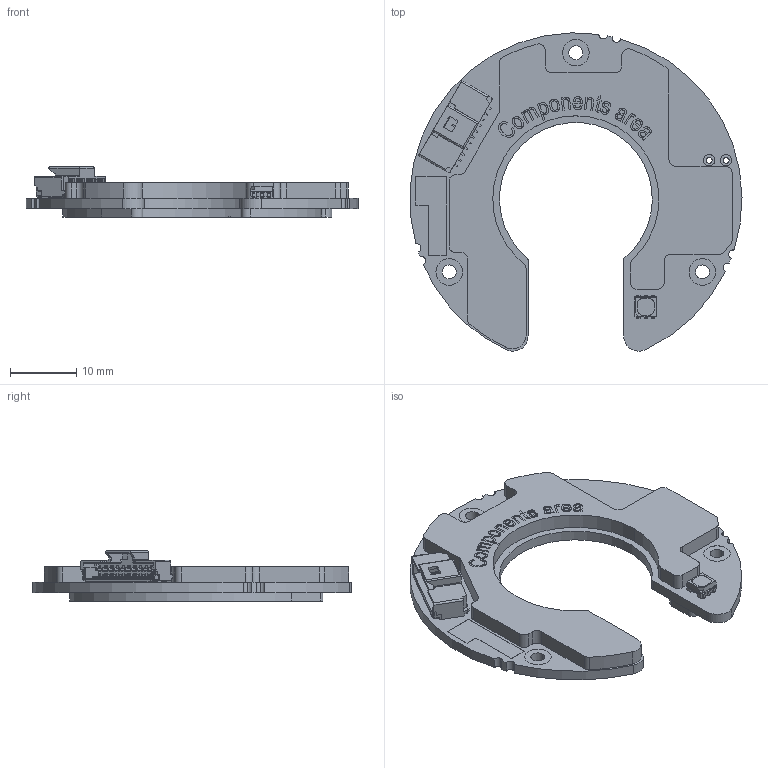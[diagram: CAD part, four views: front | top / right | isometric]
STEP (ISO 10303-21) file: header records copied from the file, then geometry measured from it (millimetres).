
FILE_DESCRIPTION (( 'STEP AP214' ), '1' );
FILE_NAME ('BR20_konektor_UVW.STEP', '2024-02-23T10:34:43', ( '' ), ( '' ), 'SwSTEP 2.0', 'SolidWorks 2022', '' );
FILE_SCHEMA (( 'AUTOMOTIVE_DESIGN' ));
Length unit declared in the file: millimetre
Products named in the file (1): BR20_konektor_UVW
Bounding box: 49.96 x 47.9 x 7.54 mm (x, y, z)
Volume: 4372.6 mm3; surface area: 4437.7 mm2
Topology: 3 solids, 3 shells, 1714 faces, 4640 edges, 2988 vertices
Faces by surface type: plane 1096, cylinder 270, bspline 256, cone 92
Entity records: 84741 total; most frequent: CARTESIAN_POINT 23957, ORIENTED_EDGE 9278, DIRECTION 7668, EDGE_CURVE 4639, VECTOR 3494, LINE 3494, VERTEX_POINT 2988, AXIS2_PLACEMENT_3D 2087
